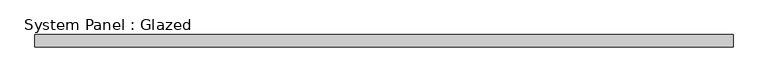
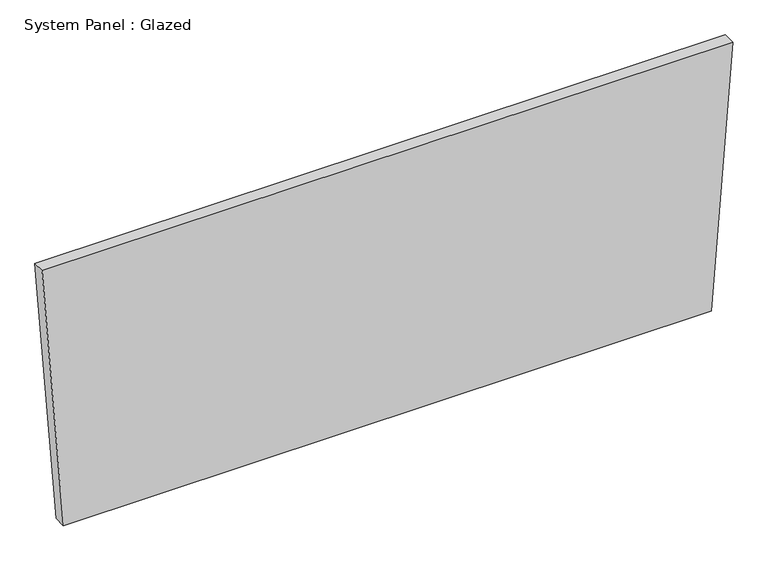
"""IFC4 building model written with IfcOpenShell, lengths in millimetres: plate geometry, System Panel : Glazed."""

from ifc_helpers import new_model, si_unit, frame, origin, place, context, project, spatial, polyline, outline, extrude, source, transform, mapped, element, save


def system_panel_glazed_020edd5b(model_context):
    return source(origin(), model_context, "Body", "SweptSolid", [
        extrude(outline(polyline([(0.0, -666.0117741), (0.0, 666.0117741), (569.6991556, 709.8991969), (569.6991556, -709.8991969), (0.0, -666.0117741)])), frame((0.0, -44.45, 0.0), z_axis=(0.0, 1.0, 0.0), x_axis=(0.0, 0.0, 1.0)), (0.0, 0.0, 1.0), 25.4),
    ])


if __name__ == "__main__":
    model = new_model("IFC4")
    model_context = context("Model", 3, world=origin())
    ifc_project = project(units=[si_unit("LENGTHUNIT", "METRE", prefix="MILLI")], contexts=[model_context])
    site = spatial("IfcSite", under=ifc_project)
    building = spatial("IfcBuilding", under=site)
    placement = place(None, origin())
    system_panel_glazed_shape = system_panel_glazed_020edd5b(model_context)
    element("IfcPlate", 1, ObjectType="System Panel : Glazed", at=placement, inside=building, context=model_context, shape_type="MappedRepresentation", body=[
        mapped(system_panel_glazed_shape, transform((0.0, 0.0, 0.0), x_axis=(1.0, 0.0, 0.0), y_axis=(0.0, 1.0, 0.0), z_axis=(0.0, 0.0, 1.0))),
    ])
    save(model, "model.ifc")
